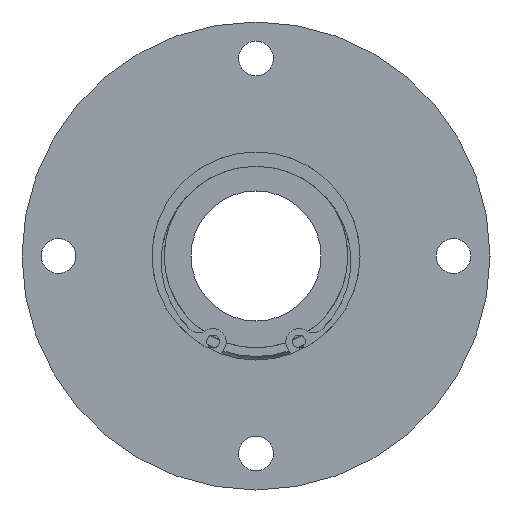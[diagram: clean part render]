
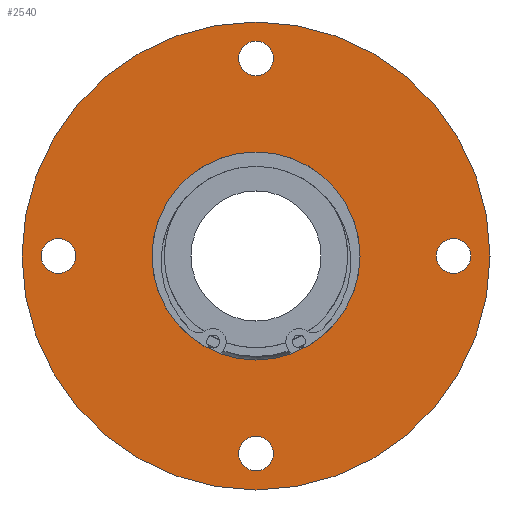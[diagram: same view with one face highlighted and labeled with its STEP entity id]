
A CAD part, left-side view. The second image highlights one B-rep face of the part: STEP entity #2540.
In plain terms, the highlighted planar face has unit normal (-1, 0, 0).
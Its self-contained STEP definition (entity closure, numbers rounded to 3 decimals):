
#1523=CARTESIAN_POINT('',(0.0,38.0,-3.324));
#1524=VERTEX_POINT('',#1523);
#1525=CARTESIAN_POINT('',(0.0,38.0,0.));
#1526=DIRECTION('',(1.0,0.0,0.0));
#1527=DIRECTION('',(0.0,0.0,-1.0));
#1528=AXIS2_PLACEMENT_3D('',#1525,#1526,#1527);
#1529=CIRCLE('',#1528,3.324);
#1530=EDGE_CURVE('',#1524,#1524,#1529,.T.);
#1551=CARTESIAN_POINT('',(0.0,-3.323,-38.0));
#1552=VERTEX_POINT('',#1551);
#1553=CARTESIAN_POINT('',(0.0,0.,-38.0));
#1554=DIRECTION('',(1.0,0.0,0.0));
#1555=DIRECTION('',(0.0,-1.0,0.0));
#1556=AXIS2_PLACEMENT_3D('',#1553,#1554,#1555);
#1557=CIRCLE('',#1556,3.324);
#1558=EDGE_CURVE('',#1552,#1552,#1557,.T.);
#1579=CARTESIAN_POINT('',(0.0,-38.0,3.323));
#1580=VERTEX_POINT('',#1579);
#1581=CARTESIAN_POINT('',(0.0,-38.0,0.));
#1582=DIRECTION('',(1.0,0.0,0.0));
#1583=DIRECTION('',(0.0,0.0,1.0));
#1584=AXIS2_PLACEMENT_3D('',#1581,#1582,#1583);
#1585=CIRCLE('',#1584,3.324);
#1586=EDGE_CURVE('',#1580,#1580,#1585,.T.);
#1607=CARTESIAN_POINT('',(0.0,3.323,38.0));
#1608=VERTEX_POINT('',#1607);
#1609=CARTESIAN_POINT('',(0.0,0.,38.0));
#1610=DIRECTION('',(1.0,0.0,0.0));
#1611=DIRECTION('',(0.0,1.0,0.0));
#1612=AXIS2_PLACEMENT_3D('',#1609,#1610,#1611);
#1613=CIRCLE('',#1612,3.324);
#1614=EDGE_CURVE('',#1608,#1608,#1613,.T.);
#2488=CARTESIAN_POINT('',(0.0,0.0,20.0));
#2489=VERTEX_POINT('',#2488);
#2490=CARTESIAN_POINT('',(0.0,0.0,0.0));
#2491=DIRECTION('',(-1.0,0.0,0.0));
#2492=DIRECTION('',(0.0,0.0,1.0));
#2493=AXIS2_PLACEMENT_3D('',#2490,#2491,#2492);
#2494=CIRCLE('',#2493,20.0);
#2495=EDGE_CURVE('',#2489,#2489,#2494,.T.);
#2509=CARTESIAN_POINT('',(0.0,0.0,32.5));
#2510=DIRECTION('',(-1.0,0.0,0.0));
#2511=DIRECTION('',(0.0,0.0,1.0));
#2512=AXIS2_PLACEMENT_3D('',#2509,#2510,#2511);
#2513=PLANE('',#2512);
#2514=CARTESIAN_POINT('',(0.0,0.0,45.0));
#2515=VERTEX_POINT('',#2514);
#2516=CARTESIAN_POINT('',(0.0,0.0,0.0));
#2517=DIRECTION('',(-1.0,0.0,0.0));
#2518=DIRECTION('',(0.0,0.0,1.0));
#2519=AXIS2_PLACEMENT_3D('',#2516,#2517,#2518);
#2520=CIRCLE('',#2519,45.0);
#2521=EDGE_CURVE('',#2515,#2515,#2520,.T.);
#2522=ORIENTED_EDGE('',*,*,#2521,.T.);
#2523=EDGE_LOOP('',(#2522));
#2524=FACE_OUTER_BOUND('',#2523,.T.);
#2525=ORIENTED_EDGE('',*,*,#1530,.T.);
#2526=EDGE_LOOP('',(#2525));
#2527=FACE_BOUND('',#2526,.T.);
#2528=ORIENTED_EDGE('',*,*,#1558,.T.);
#2529=EDGE_LOOP('',(#2528));
#2530=FACE_BOUND('',#2529,.T.);
#2531=ORIENTED_EDGE('',*,*,#1586,.T.);
#2532=EDGE_LOOP('',(#2531));
#2533=FACE_BOUND('',#2532,.T.);
#2534=ORIENTED_EDGE('',*,*,#1614,.T.);
#2535=EDGE_LOOP('',(#2534));
#2536=FACE_BOUND('',#2535,.T.);
#2537=ORIENTED_EDGE('',*,*,#2495,.F.);
#2538=EDGE_LOOP('',(#2537));
#2539=FACE_BOUND('',#2538,.T.);
#2540=ADVANCED_FACE('',(#2524,#2527,#2530,#2533,#2536,#2539),#2513,.T.);
